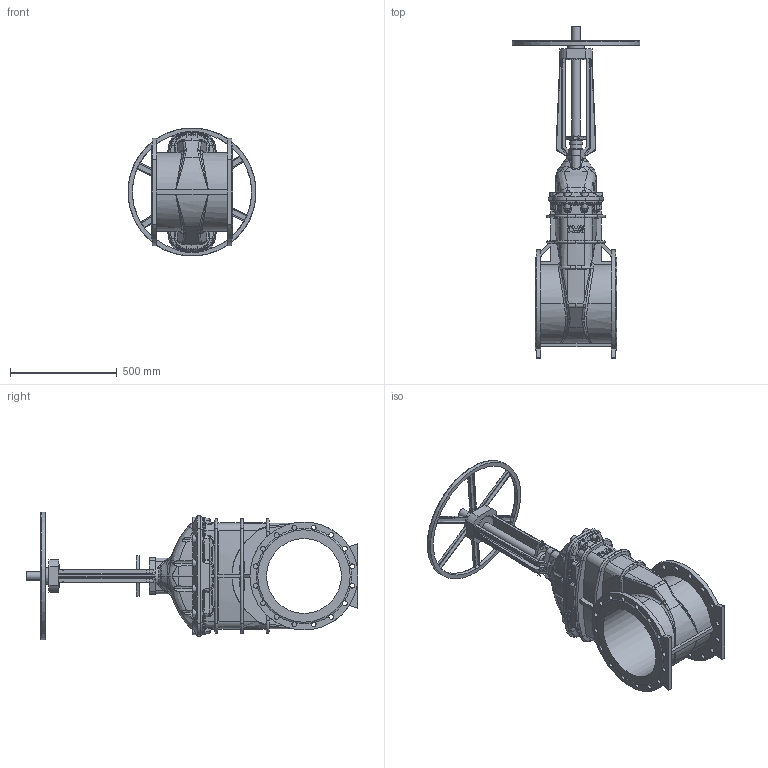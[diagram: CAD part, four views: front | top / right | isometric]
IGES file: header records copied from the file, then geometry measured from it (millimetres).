
Start section: SolidWorks IGES file using analytic representation for surfaces
Global section: file name: \\avksan2\techshare\PBM outline export from Enovia\O_21_34_DN350_40XXXXX close_AA0.igs; native system: SolidWorks 2012; preprocessor: SolidWorks 2012; author: pbm; date: 200212.104328; units: millimetre
Bounding box: 598.51 x 1552.5 x 598.51 mm (x, y, z)
Surface area: 2888128.7 mm2 (no closed solid volume)
Topology: 0 solids, 0 shells, 1044 faces, 5743 edges, 5677 vertices
Faces by surface type: bspline 566, revolution 478
